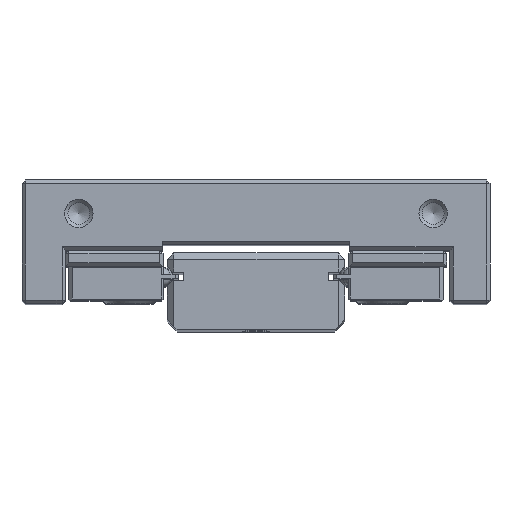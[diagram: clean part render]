
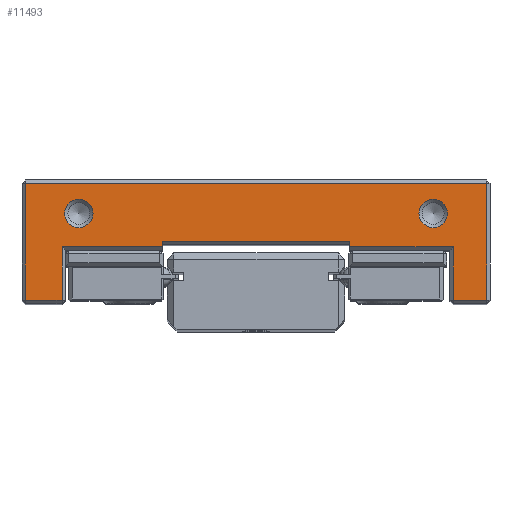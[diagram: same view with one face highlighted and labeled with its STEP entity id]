
A CAD part, top view. The second image highlights one B-rep face of the part: STEP entity #11493.
In plain terms, the highlighted planar face has unit normal (0, 0, 1).
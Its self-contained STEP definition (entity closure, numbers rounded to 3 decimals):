
#323=FACE_BOUND('',#1815,.T.);
#324=FACE_BOUND('',#1816,.T.);
#582=PLANE('',#12331);
#1133=FACE_OUTER_BOUND('',#1814,.T.);
#1814=EDGE_LOOP('',(#8446,#8447,#8448,#8449,#8450,#8451,#8452,#8453,#8454,
#8455,#8456,#8457));
#1815=EDGE_LOOP('',(#8458));
#1816=EDGE_LOOP('',(#8459));
#2693=LINE('',#17695,#3708);
#2694=LINE('',#17698,#3709);
#2701=LINE('',#17712,#3716);
#2708=LINE('',#17725,#3723);
#2722=LINE('',#17755,#3737);
#2729=LINE('',#17789,#3744);
#2730=LINE('',#17791,#3745);
#2731=LINE('',#17793,#3746);
#2732=LINE('',#17795,#3747);
#2733=LINE('',#17797,#3748);
#2734=LINE('',#17799,#3749);
#2735=LINE('',#17800,#3750);
#3708=VECTOR('',#13905,10.);
#3709=VECTOR('',#13908,10.);
#3716=VECTOR('',#13917,10.);
#3723=VECTOR('',#13926,10.);
#3737=VECTOR('',#13952,10.);
#3744=VECTOR('',#13993,10.);
#3745=VECTOR('',#13994,10.);
#3746=VECTOR('',#13995,10.);
#3747=VECTOR('',#13996,10.);
#3748=VECTOR('',#13997,10.);
#3749=VECTOR('',#13998,10.);
#3750=VECTOR('',#13999,10.);
#4479=CIRCLE('',#12329,2.121);
#4481=CIRCLE('',#12332,2.121);
#5118=VERTEX_POINT('',#17691);
#5119=VERTEX_POINT('',#17693);
#5120=VERTEX_POINT('',#17697);
#5125=VERTEX_POINT('',#17709);
#5126=VERTEX_POINT('',#17711);
#5131=VERTEX_POINT('',#17723);
#5150=VERTEX_POINT('',#17783);
#5151=VERTEX_POINT('',#17788);
#5152=VERTEX_POINT('',#17790);
#5153=VERTEX_POINT('',#17792);
#5154=VERTEX_POINT('',#17794);
#5155=VERTEX_POINT('',#17796);
#5156=VERTEX_POINT('',#17798);
#5157=VERTEX_POINT('',#17801);
#6349=EDGE_CURVE('',#5119,#5118,#2693,.T.);
#6350=EDGE_CURVE('',#5120,#5118,#2694,.T.);
#6357=EDGE_CURVE('',#5125,#5126,#2701,.T.);
#6364=EDGE_CURVE('',#5125,#5131,#2708,.T.);
#6380=EDGE_CURVE('',#5120,#5131,#2722,.T.);
#6394=EDGE_CURVE('',#5150,#5150,#4479,.T.);
#6396=EDGE_CURVE('',#5151,#5119,#2729,.T.);
#6397=EDGE_CURVE('',#5152,#5151,#2730,.T.);
#6398=EDGE_CURVE('',#5153,#5152,#2731,.T.);
#6399=EDGE_CURVE('',#5154,#5153,#2732,.T.);
#6400=EDGE_CURVE('',#5155,#5154,#2733,.T.);
#6401=EDGE_CURVE('',#5156,#5155,#2734,.T.);
#6402=EDGE_CURVE('',#5126,#5156,#2735,.T.);
#6403=EDGE_CURVE('',#5157,#5157,#4481,.T.);
#8446=ORIENTED_EDGE('',*,*,#6396,.F.);
#8447=ORIENTED_EDGE('',*,*,#6397,.F.);
#8448=ORIENTED_EDGE('',*,*,#6398,.F.);
#8449=ORIENTED_EDGE('',*,*,#6399,.F.);
#8450=ORIENTED_EDGE('',*,*,#6400,.F.);
#8451=ORIENTED_EDGE('',*,*,#6401,.F.);
#8452=ORIENTED_EDGE('',*,*,#6402,.F.);
#8453=ORIENTED_EDGE('',*,*,#6357,.F.);
#8454=ORIENTED_EDGE('',*,*,#6364,.T.);
#8455=ORIENTED_EDGE('',*,*,#6380,.F.);
#8456=ORIENTED_EDGE('',*,*,#6350,.T.);
#8457=ORIENTED_EDGE('',*,*,#6349,.F.);
#8458=ORIENTED_EDGE('',*,*,#6403,.F.);
#8459=ORIENTED_EDGE('',*,*,#6394,.F.);
#11493=ADVANCED_FACE('',(#1133,#323,#324),#582,.T.);
#12329=AXIS2_PLACEMENT_3D('',#17785,#13987,#13988);
#12331=AXIS2_PLACEMENT_3D('',#17787,#13991,#13992);
#12332=AXIS2_PLACEMENT_3D('',#17802,#14000,#14001);
#13905=DIRECTION('',(-1.,0.,0.));
#13908=DIRECTION('',(0.,-1.,0.));
#13917=DIRECTION('',(-1.,0.,0.));
#13926=DIRECTION('',(0.,1.,0.));
#13952=DIRECTION('',(-1.,0.,0.));
#13987=DIRECTION('center_axis',(0.,0.,
1.));
#13988=DIRECTION('ref_axis',(-1.,0.,0.));
#13991=DIRECTION('center_axis',(0.,0.,
1.));
#13992=DIRECTION('ref_axis',(-1.,0.,0.));
#13993=DIRECTION('',(0.,1.,0.));
#13994=DIRECTION('',(-1.,0.,0.));
#13995=DIRECTION('',(0.,-1.,0.));
#13996=DIRECTION('',(1.,0.,0.));
#13997=DIRECTION('',(0.,1.,0.));
#13998=DIRECTION('',(-1.,0.,0.));
#13999=DIRECTION('',(0.,-1.,0.));
#14000=DIRECTION('center_axis',(0.,0.,
1.));
#14001=DIRECTION('ref_axis',(-1.,0.,0.));
#17691=CARTESIAN_POINT('',(14.,6.75,40.));
#17693=CARTESIAN_POINT('',(29.5,6.75,40.));
#17695=CARTESIAN_POINT('',(14.5,6.75,40.));
#17697=CARTESIAN_POINT('',(14.,7.55,40.));
#17698=CARTESIAN_POINT('',(14.,7.05,40.));
#17709=CARTESIAN_POINT('',(-14.,6.75,40.));
#17711=CARTESIAN_POINT('',(-29.,6.75,40.));
#17712=CARTESIAN_POINT('',(-7.,6.75,40.));
#17723=CARTESIAN_POINT('',(-14.,7.55,40.));
#17725=CARTESIAN_POINT('',(-14.,6.25,40.));
#17755=CARTESIAN_POINT('',(7.,7.55,40.));
#17783=CARTESIAN_POINT('',(-24.379,11.75,40.));
#17785=CARTESIAN_POINT('Origin',(-26.5,11.75,40.));
#17787=CARTESIAN_POINT('Origin',(0.,7.5,
40.));
#17788=CARTESIAN_POINT('',(29.5,-1.25,40.));
#17789=CARTESIAN_POINT('',(29.5,2.875,40.));
#17790=CARTESIAN_POINT('',(34.5,-1.25,40.));
#17791=CARTESIAN_POINT('',(17.5,-1.25,40.));
#17792=CARTESIAN_POINT('',(34.5,16.25,40.));
#17793=CARTESIAN_POINT('',(34.5,12.125,40.));
#17794=CARTESIAN_POINT('',(-34.5,16.25,40.));
#17795=CARTESIAN_POINT('',(-17.5,16.25,40.));
#17796=CARTESIAN_POINT('',(-34.5,-1.25,40.));
#17797=CARTESIAN_POINT('',(-34.5,2.875,40.));
#17798=CARTESIAN_POINT('',(-29.,-1.25,40.));
#17799=CARTESIAN_POINT('',(-14.25,-1.25,40.));
#17800=CARTESIAN_POINT('',(-29.,6.875,40.));
#17801=CARTESIAN_POINT('',(28.621,11.75,40.));
#17802=CARTESIAN_POINT('Origin',(26.5,11.75,40.));
